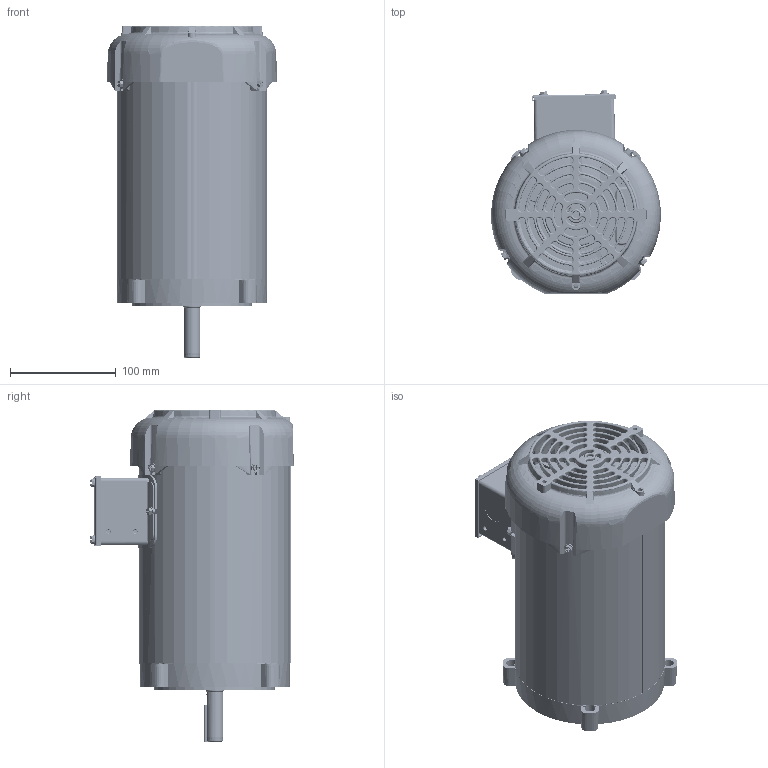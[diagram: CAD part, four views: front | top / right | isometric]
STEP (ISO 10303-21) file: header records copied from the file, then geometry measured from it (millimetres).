
FILE_DESCRIPTION (( 'STEP AP203' ), '1' );
FILE_NAME ('SS403148-750_Rev02.STEP', '2018-11-13T14:13:44', ( '' ), ( '' ), 'SwSTEP 2.0', 'SolidWorks 2015', '' );
FILE_SCHEMA (( 'CONFIG_CONTROL_DESIGN' ));
Length unit declared in the file: inch
Products named in the file (1): SS403148-750_Rev02
Bounding box: 160.99 x 192.41 x 314.37 mm (x, y, z)
Volume: 573245 mm3; surface area: 491078.4 mm2
Topology: 57 solids, 58 shells, 4943 faces, 12753 edges, 7894 vertices
Faces by surface type: plane 1571, torus 1078, cylinder 934, cone 777, bspline 521, sphere 62
Entity records: 177392 total; most frequent: CARTESIAN_POINT 61989, ORIENTED_EDGE 25212, DIRECTION 23811, EDGE_CURVE 12606, AXIS2_PLACEMENT_3D 9822, VERTEX_POINT 7832, CIRCLE 5399, EDGE_LOOP 5194
